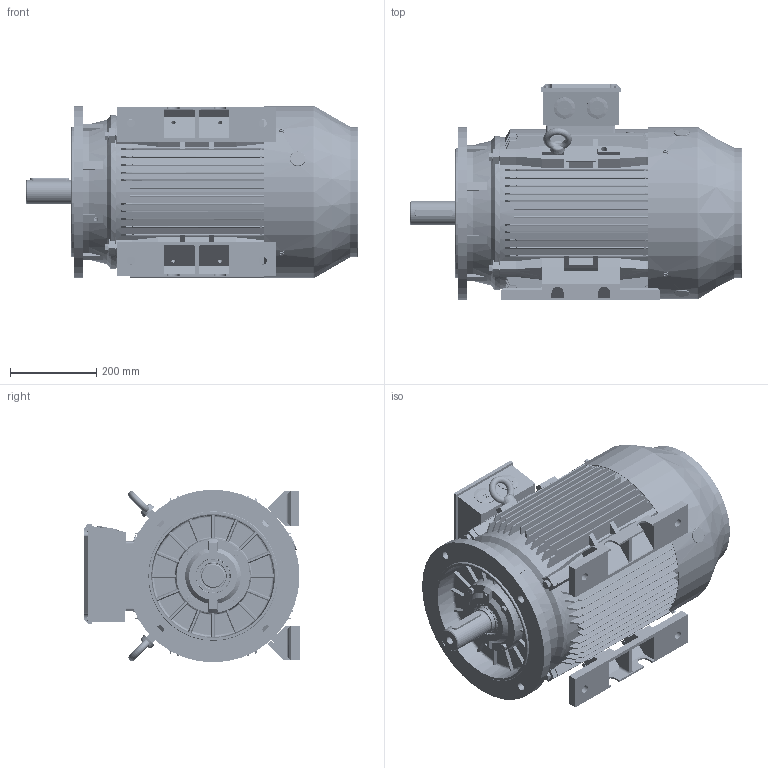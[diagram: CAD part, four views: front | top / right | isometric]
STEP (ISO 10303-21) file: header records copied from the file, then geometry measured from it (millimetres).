
FILE_DESCRIPTION (( 'STEP AP214' ), '1' );
FILE_NAME ('BCT3370.20J235.11.STEP', '2020-04-23T09:07:26', ( '' ), ( '' ), 'SwSTEP 2.0', 'SolidWorks 2019', '' );
FILE_SCHEMA (( 'AUTOMOTIVE_DESIGN' ));
Length unit declared in the file: millimetre
Products named in the file (1): BCT3370.20J235.11
Bounding box: 768.5 x 498.27 x 400 mm (x, y, z)
Volume: 16861814.7 mm3; surface area: 4381425.9 mm2
Topology: 57 solids, 57 shells, 8430 faces, 24428 edges, 15941 vertices
Faces by surface type: plane 3998, cylinder 3343, cone 365, torus 320, sphere 264, bspline 140
Entity records: 314039 total; most frequent: CARTESIAN_POINT 87710, ORIENTED_EDGE 48352, DIRECTION 46452, EDGE_CURVE 24176, AXIS2_PLACEMENT_3D 16277, VERTEX_POINT 15869, VECTOR 13898, LINE 13898
